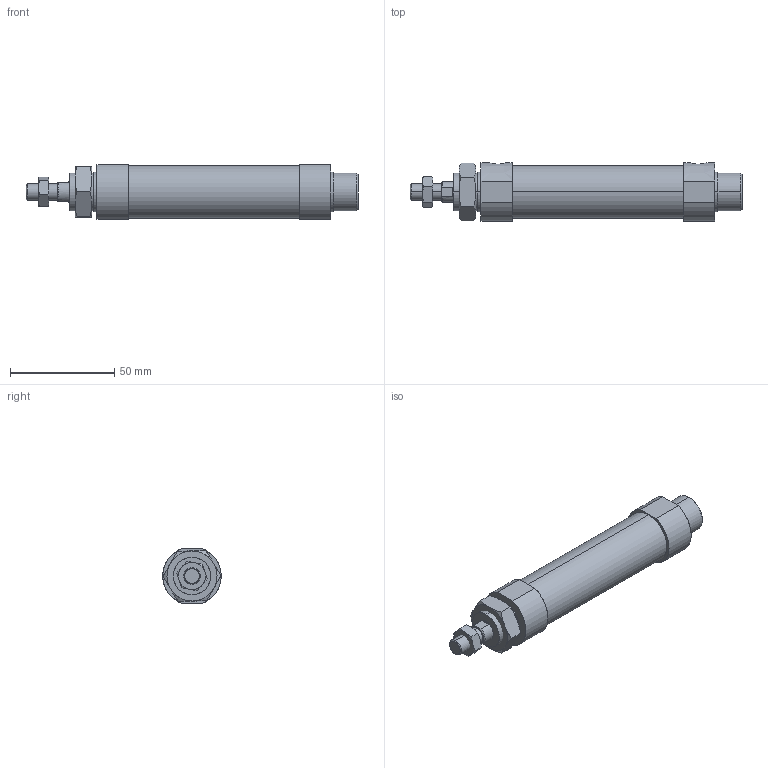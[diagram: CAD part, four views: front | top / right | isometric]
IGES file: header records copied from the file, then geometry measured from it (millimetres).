
Start section: SolidWorks IGES file using analytic representation for surfaces
Global section: file name: C:\Users\Toshiba\Desktop\J#2-20-50-N.IGS; native system: SolidWorks 2014; preprocessor: SolidWorks 2014; author: Toshiba; date: 160308.145748; units: millimetre
Bounding box: 159 x 28 x 26 mm (x, y, z)
Surface area: 15368.8 mm2 (no closed solid volume)
Topology: 0 solids, 0 shells, 92 faces, 1620 edges, 1620 vertices
Faces by surface type: bspline 60, revolution 32
